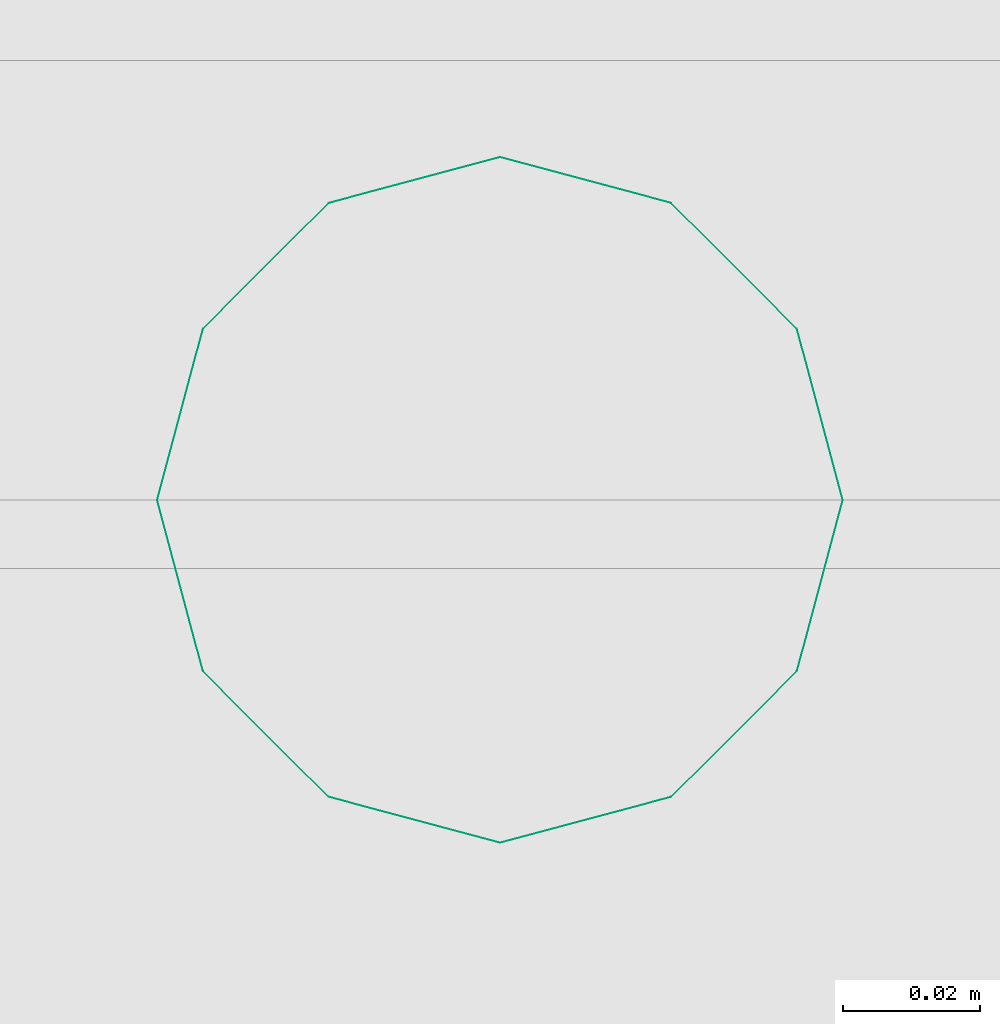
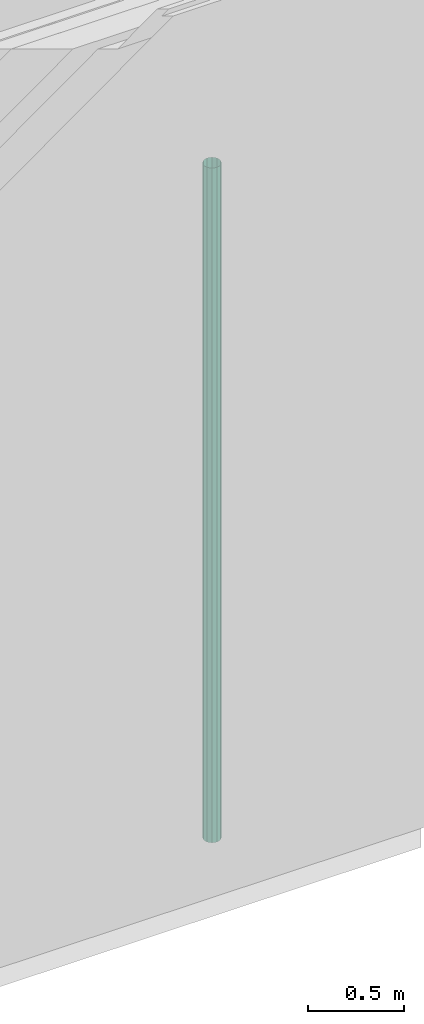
# One storey, part 93 of 109: 1 distribution flow element.
"""IFC2X3 building model written with IfcOpenShell, lengths in millimetres."""

import ifcopenshell
import ifcopenshell.guid

model = None  # the IFC model being written
_history = None  # IfcOwnerHistory: only IFC2X3 demands one
_inside = {}  # id of a spatial element -> (the spatial element, [elements in it])
_under = {}  # id of a project, library or spatial element -> (it, [spatial elements below it])
_declared = {}  # id of a project -> (the project, [libraries it declares])
_typed = {}  # id of a type object -> (the type object, [elements of that type])
_made_of = {}  # id of a material, layer set ... -> (it, [elements and type objects made of it])


def new_model(schema):
    """Start an empty IFC model of exactly this schema.

    Asked for "IFC4X3", IfcOpenShell would pick the latest addendum, in which some entities
    have other attributes; the version numbers below select the first issue.
    IFC2X3 requires an IfcOwnerHistory on every rooted entity: one is made here for all.
    """
    global model, _history
    if schema == "IFC4X3":
        model = ifcopenshell.file(schema_version=(4, 3, 0, 0))
    else:
        model = ifcopenshell.file(schema=schema)
    _inside.clear()
    _under.clear()
    _declared.clear()
    _typed.clear()
    _made_of.clear()
    _history = None
    if model.schema == "IFC2X3":
        org = make("IfcOrganization", Name="unknown")
        user = make(
            "IfcPersonAndOrganization",
            ThePerson=make("IfcPerson", FamilyName="unknown"),
            TheOrganization=org,
        )
        app = make(
            "IfcApplication",
            ApplicationDeveloper=org,
            Version="unknown",
            ApplicationFullName="unknown",
            ApplicationIdentifier="unknown",
        )
        _history = make(
            "IfcOwnerHistory",
            OwningUser=user,
            OwningApplication=app,
            ChangeAction="ADDED",
            CreationDate=0,
        )
    return model


def make(cls, **values):
    """One entity of the class cls with the attributes given. An attribute that is None is left unset."""
    return model.create_entity(
        cls, **{name: value for name, value in values.items() if value is not None}
    )


def entity(cls, *values):
    """Any entity or typed value of the class cls, its attributes in the order of the schema. None: left unset."""
    e = model.create_entity(cls)
    for i, value in enumerate(values):
        if value is not None:
            e[i] = value
    return e


def rooted(cls, **values):
    """An entity with a GlobalId (a new one), such as an element, a storey or a relation."""
    return make(cls, GlobalId=ifcopenshell.guid.new(), OwnerHistory=_history, **values)


def si_unit(unit_type, name, prefix=None):
    """IfcSIUnit, for example si_unit("LENGTHUNIT", "METRE", prefix="MILLI")."""
    return make("IfcSIUnit", UnitType=unit_type, Prefix=prefix, Name=name)


def converted_unit(unit_type, name, factor, base, dimensions=None, offset=None):
    """IfcConversionBasedUnit, such as the inch: factor (a typed value) times the base unit."""
    return make(
        "IfcConversionBasedUnit"
        if offset is None
        else "IfcConversionBasedUnitWithOffset",
        ConversionOffset=offset,
        Dimensions=None
        if dimensions is None
        else entity("IfcDimensionalExponents", *dimensions),
        UnitType=unit_type,
        Name=name,
        ConversionFactor=make(
            "IfcMeasureWithUnit", ValueComponent=factor, UnitComponent=base
        ),
    )


def derived_unit(unit_type, elements):
    """IfcDerivedUnit: a product of units, each with its exponent."""
    return make(
        "IfcDerivedUnit",
        Elements=[
            make("IfcDerivedUnitElement", Unit=unit, Exponent=power)
            for unit, power in elements
        ],
        UnitType=unit_type,
    )


def money_unit(currency):
    """IfcMonetaryUnit."""
    return make("IfcMonetaryUnit", Currency=currency)


def assignment(units):
    """IfcUnitAssignment: the units of a project."""
    return None if units is None else make("IfcUnitAssignment", Units=units)


def point(xyz):
    """IfcCartesianPoint."""
    return None if xyz is None else make("IfcCartesianPoint", Coordinates=xyz)


def direction(xyz):
    """IfcDirection."""
    return None if xyz is None else make("IfcDirection", DirectionRatios=xyz)


def frame(location, z_axis=None, x_axis=None):
    """IfcAxis2Placement3D, a coordinate frame: its origin and axes. An axis left out is left unset."""
    return make(
        "IfcAxis2Placement3D",
        Location=point(location),
        Axis=direction(z_axis),
        RefDirection=direction(x_axis),
    )


def origin_with_axes():
    """The frame at (0, 0, 0) with the z axis (0, 0, 1) and the x axis (1, 0, 0) written out."""
    return frame((0.0, 0.0, 0.0), z_axis=(0.0, 0.0, 1.0), x_axis=(1.0, 0.0, 0.0))


def place(relative_to, where):
    """IfcLocalPlacement: puts the frame where relative to a parent placement (None: the world)."""
    return make(
        "IfcLocalPlacement", PlacementRelTo=relative_to, RelativePlacement=where
    )


def context(
    kind, dimensions, precision=None, world=None, true_north=None, identifier=None
):
    """IfcGeometricRepresentationContext, for example the 3D "Model" context."""
    return make(
        "IfcGeometricRepresentationContext",
        ContextIdentifier=identifier,
        ContextType=kind,
        CoordinateSpaceDimension=dimensions,
        Precision=precision,
        WorldCoordinateSystem=world,
        TrueNorth=true_north,
    )


def subcontext(parent, identifier, kind, view, scale=None):
    """IfcGeometricRepresentationSubContext, for example "Body" below "Model"."""
    return make(
        "IfcGeometricRepresentationSubContext",
        ContextIdentifier=identifier,
        ContextType=kind,
        ParentContext=parent,
        TargetScale=scale,
        TargetView=view,
    )


def project(units=None, contexts=None):
    """IfcProject with its units and contexts."""
    return rooted(
        "IfcProject",
        Name="project",
        RepresentationContexts=contexts,
        UnitsInContext=assignment(units),
    )


def spatial(cls, under=None, at=None, **own):
    """A site, building, storey or space (cls), placed at a placement, below another one or the project."""
    s = rooted(cls, ObjectPlacement=at, **own)
    if under is not None:
        _under.setdefault(under.id(), (under, []))[1].append(s)
    return s


def faces_of(points, faces, orient=None, outer=None):
    """IfcFace entities. A face is a list of loops; a loop is a list of indices into points, from 0.

    orient and outer hold one flag for each loop. By default every Orientation is true, the
    first loop of a face is its IfcFaceOuterBound and the others are IfcFaceBound.
    """
    made = []
    for i, loops in enumerate(faces):
        bounds = []
        for j, loop in enumerate(loops):
            is_outer = j == 0 if outer is None else outer[i][j]
            bounds.append(
                make(
                    "IfcFaceOuterBound" if is_outer else "IfcFaceBound",
                    Bound=make("IfcPolyLoop", Polygon=[points[k] for k in loop]),
                    Orientation=True if orient is None else orient[i][j],
                )
            )
        made.append(make("IfcFace", Bounds=bounds))
    return made


def open_shell(faces, orient=None, outer=None):
    """The faces of one IfcOpenShell. surface_model builds it on its shared points."""
    return ("IfcOpenShell", faces, orient, outer)


def surface_model(cls, points, shells):
    """IfcFaceBasedSurfaceModel or IfcShellBasedSurfaceModel (cls): surfaces that need not close."""
    shared = [point(p) for p in points]
    made = [make(c, CfsFaces=faces_of(shared, fs, o, b)) for c, fs, o, b in shells]
    if cls == "IfcFaceBasedSurfaceModel":
        return make(cls, FbsmFaces=made)
    return make(cls, SbsmBoundary=made)


def shape(context_of_items, identifier, shape_type, items):
    """IfcShapeRepresentation: the items that make up one representation, for example the "Body"."""
    return make(
        "IfcShapeRepresentation",
        ContextOfItems=context_of_items,
        RepresentationIdentifier=identifier,
        RepresentationType=shape_type,
        Items=items,
    )


def source(mapping_origin, context_of_items, identifier, shape_type, items):
    """IfcRepresentationMap: a shape defined once, which mapped items show again and again."""
    return make(
        "IfcRepresentationMap",
        MappingOrigin=mapping_origin,
        MappedRepresentation=shape(context_of_items, identifier, shape_type, items),
    )


def transform(
    local_origin,
    x_axis=None,
    y_axis=None,
    z_axis=None,
    scale=None,
    scale2=None,
    scale3=None,
    uniform=True,
):
    """IfcCartesianTransformationOperator3D, or its non-uniform kind. x_axis, y_axis, z_axis: its Axis1, 2, 3."""
    if uniform:
        return make(
            "IfcCartesianTransformationOperator3D",
            Axis1=direction(x_axis),
            Axis2=direction(y_axis),
            LocalOrigin=point(local_origin),
            Scale=scale,
            Axis3=direction(z_axis),
        )
    return make(
        "IfcCartesianTransformationOperator3DnonUniform",
        Axis1=direction(x_axis),
        Axis2=direction(y_axis),
        LocalOrigin=point(local_origin),
        Scale=scale,
        Axis3=direction(z_axis),
        Scale2=scale2,
        Scale3=scale3,
    )


def mapped(mapping_source, mapping_target):
    """IfcMappedItem: shows the shape of a source again, moved by a transform."""
    return make(
        "IfcMappedItem", MappingSource=mapping_source, MappingTarget=mapping_target
    )


def made_of(thing, what):
    """Note that an element or type object is made of a material, layer set ...; save() writes the relation."""
    if what is not None:
        _made_of.setdefault(what.id(), (what, []))[1].append(thing)
    return thing


def type_object(cls, material=None, **own):
    """A type object (cls), such as IfcWallType, which elements share."""
    return made_of(rooted(cls, **own), material)


def type_shapes(of_type, sources):
    """Give a type object the sources (RepresentationMaps) that its elements show as mapped items."""
    of_type.RepresentationMaps = sources


def element(
    cls,
    number,
    at=None,
    inside=None,
    cuts=None,
    type_object=None,
    material=None,
    context=None,
    identifier="Body",
    shape_type=None,
    held_by="IfcProductDefinitionShape",
    body=None,
    shapes=None,
    **own,
):
    """One element of the class cls, such as IfcWall. Its Tag is "e" and its number.

    at: its placement. inside: the storey or other place that contains it. cuts: it is an
    opening in that element (IfcRelVoidsElement). A single representation is given by context,
    identifier, shape_type and body (its items); several are given by shapes. held_by: the class
    of the entity that holds the representations. save() writes the other relations.
    """
    e = rooted(cls, Tag="e%d" % number, ObjectPlacement=at, **own)
    if body is not None:
        shapes = [shape(context, identifier, shape_type, body)]
    if shapes is not None:
        e.Representation = make(held_by, Representations=shapes)
    if inside is not None:
        _inside.setdefault(inside.id(), (inside, []))[1].append(e)
    if cuts is not None:
        rooted(
            "IfcRelVoidsElement", RelatingBuildingElement=cuts, RelatedOpeningElement=e
        )
    if type_object is not None:
        _typed.setdefault(type_object.id(), (type_object, []))[1].append(e)
    return made_of(e, material)


def aggregate(whole, parts):
    """IfcRelAggregates: a whole, such as a stair, and the parts it consists of."""
    return rooted("IfcRelAggregates", RelatingObject=whole, RelatedObjects=parts)


def save(model, path):
    """Write the relations noted so far, then the file.

    IfcRelAggregates (storeys below a building ...), IfcRelContainedInSpatialStructure (elements
    in a storey), IfcRelDefinesByType, IfcRelAssociatesMaterial and IfcRelDeclares: one each for
    every whole, place, type object, material and project.
    """
    for whole, parts in _under.values():
        aggregate(whole, parts)
    for where, things in _inside.values():
        rooted(
            "IfcRelContainedInSpatialStructure",
            RelatedElements=things,
            RelatingStructure=where,
        )
    for kind, things in _typed.values():
        rooted("IfcRelDefinesByType", RelatedObjects=things, RelatingType=kind)
    for what, things in _made_of.values():
        rooted("IfcRelAssociatesMaterial", RelatedObjects=things, RelatingMaterial=what)
    for by, libraries in _declared.values():
        rooted("IfcRelDeclares", RelatingContext=by, RelatedDefinitions=libraries)
    model.write(path)


model = new_model("IFC2X3")

# Units and contexts
model_context = context("Model", 3, precision=0.01, world=origin_with_axes(), true_north=direction((0.0, 1.0)))
body_context = subcontext(model_context, "Body", "Model", "MODEL_VIEW")
ifc_project = project(units=[si_unit("LENGTHUNIT", "METRE", prefix="MILLI"), si_unit("AREAUNIT", "SQUARE_METRE"), si_unit("VOLUMEUNIT", "CUBIC_METRE"), converted_unit("PLANEANGLEUNIT", "DEGREE", entity("IfcPlaneAngleMeasure", 0.0174532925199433), si_unit("PLANEANGLEUNIT", "RADIAN"), dimensions=[0, 0, 0, 0, 0, 0, 0]), money_unit("EUR"), converted_unit("TIMEUNIT", "Year", entity("IfcTimeMeasure", 31557600.0), si_unit("TIMEUNIT", "SECOND"), dimensions=[0, 0, 1, 0, 0, 0, 0]), si_unit("MASSUNIT", "GRAM", prefix="KILO"), si_unit("THERMODYNAMICTEMPERATUREUNIT", "DEGREE_CELSIUS"), si_unit("LUMINOUSINTENSITYUNIT", "LUMEN"), si_unit("ENERGYUNIT", "JOULE", prefix="MEGA"), derived_unit("THERMALCONDUCTANCEUNIT", [(si_unit("POWERUNIT", "WATT"), 1), (si_unit("LENGTHUNIT", "METRE"), -1), (si_unit("THERMODYNAMICTEMPERATUREUNIT", "KELVIN"), -1)]), derived_unit("SPECIFICHEATCAPACITYUNIT", [(si_unit("ENERGYUNIT", "JOULE"), 1), (si_unit("MASSUNIT", "GRAM", prefix="KILO"), -1), (si_unit("THERMODYNAMICTEMPERATUREUNIT", "KELVIN"), -1)]), derived_unit("MASSDENSITYUNIT", [(si_unit("MASSUNIT", "GRAM", prefix="KILO"), 1), (si_unit("VOLUMEUNIT", "CUBIC_METRE"), -1)])], contexts=[model_context])

# Site, building, storey
site_placement = place(None, origin_with_axes())
site = spatial("IfcSite", under=ifc_project, at=site_placement, Name="<site naam>", CompositionType="ELEMENT")
building_placement = place(site_placement, origin_with_axes())
building = spatial("IfcBuilding", under=site, at=building_placement, Name="<Naam gebouw>", CompositionType="ELEMENT")
storey_placement = place(building_placement, origin_with_axes())
storey = spatial("IfcBuildingStorey", under=building, at=storey_placement, Name="00 Begane grond", CompositionType="ELEMENT", Elevation=0.0)

# Distribution flow element
valve_type = type_object("IfcValveType", Name="Regenpijp 27", PredefinedType="AIRRELEASE")
shared_shape = source(origin_with_axes(), body_context, "Body", "SurfaceModel", [
    surface_model("IfcShellBasedSurfaceModel", [(-50.0, -30.0, 4272.999999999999), (-50.0, -30.0, 0.0), (-43.30127018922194, -54.99999999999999, 0.0), (-43.30127018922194, -54.99999999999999, 4272.999999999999), (-43.30127018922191, -4.999999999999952, 4272.999999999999), (-43.30127018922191, -4.999999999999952, 0.0), (-25.00000000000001, -73.30127018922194, 0.0), (-25.00000000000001, -73.30127018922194, 4272.999999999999), (-24.99999999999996, 13.30127018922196, 4272.999999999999), (-24.99999999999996, 13.30127018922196, 0.0), (0.0, -80.0, 0.0), (0.0, -80.0, 4272.999999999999), (0.0, 20.0, 4272.999999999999), (0.0, 20.0, 0.0), (24.99999999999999, -73.30127018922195, 0.0), (24.99999999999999, -73.30127018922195, 4272.999999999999), (25.00000000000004, 13.30127018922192, 4272.999999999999), (25.00000000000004, 13.30127018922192, 0.0), (43.30127018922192, -55.00000000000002, 0.0), (43.30127018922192, -55.00000000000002, 4272.999999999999), (43.30127018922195, -5.000000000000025, 4272.999999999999), (43.30127018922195, -5.000000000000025, 0.0), (50.0, -30.00000000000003, 0.0), (50.0, -30.00000000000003, 4272.999999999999)], [open_shell([[[0, 1, 2, 3]], [[4, 5, 1, 0]], [[3, 2, 6, 7]], [[8, 9, 5, 4]], [[7, 6, 10, 11]], [[12, 13, 9, 8]], [[11, 10, 14, 15]], [[16, 17, 13, 12]], [[15, 14, 18, 19]], [[20, 21, 17, 16]], [[19, 18, 22, 23]], [[23, 22, 21, 20]]])]),
])
type_shapes(valve_type, [shared_shape])
distribution_flow_element_placement = place(storey_placement, frame((69225.000113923, 140.9107379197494, 0.0), z_axis=(0.0, 0.0, 1.0), x_axis=(1.0, 0.0, 0.0)))
element("IfcDistributionFlowElement", 1, at=distribution_flow_element_placement, inside=storey, type_object=valve_type, Name="52_Wasmachine_Lege", context=body_context, shape_type="MappedRepresentation", body=[
    mapped(shared_shape, transform((0.0, 0.0, 0.0))),
])

save(model, "model.ifc")
